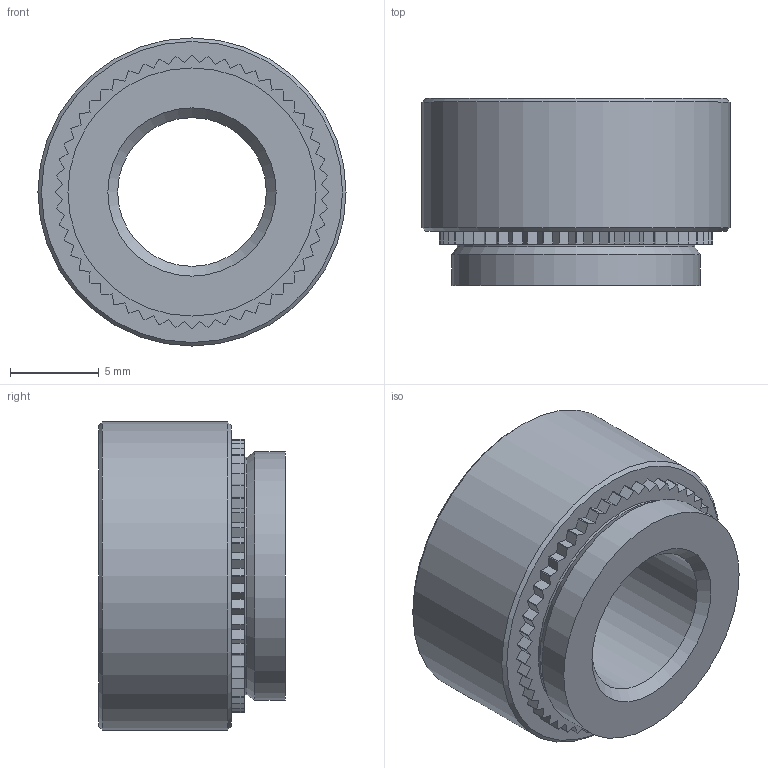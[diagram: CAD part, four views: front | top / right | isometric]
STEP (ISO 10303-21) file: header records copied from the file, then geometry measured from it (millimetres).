
FILE_DESCRIPTION(/* description */ (''),/* implementation_level */ '2;1');
FILE_NAME(/* name */ 'C:\Users\keval.kumar\Desktop\Fastit\Clinch nut\M10\Clinch Nut_M10_2.stp',/* time_stamp */ '2024-03-14T09:44:08+05:00',/* author */ ('keval.kumar'),/* organization */ (''),/* preprocessor_version */ 'ST-DEVELOPER v18.1',/* originating_system */ 'Autodesk Inventor 2022',/* authorisation */ '');
FILE_SCHEMA (('AUTOMOTIVE_DESIGN { 1 0 10303 214 3 1 1 }'));
Length unit declared in the file: millimetre
Products named in the file (1): Clinch Nut_M10_2
Bounding box: 17.35 x 10.53 x 17.35 mm (x, y, z)
Volume: 1658.1 mm3; surface area: 1182 mm2
Topology: 1 solids, 1 shells, 169 faces, 492 edges, 327 vertices
Faces by surface type: plane 108, cylinder 56, cone 5
Full cylindrical faces by diameter (mm): 8.376 x1, 13.4 x1, 13.97 x1, 17.35 x1
Entity records: 5628 total; most frequent: CARTESIAN_POINT 989, ORIENTED_EDGE 984, DIRECTION 951, EDGE_CURVE 492, LINE 373, VECTOR 373, VERTEX_POINT 327, AXIS2_PLACEMENT_3D 289
